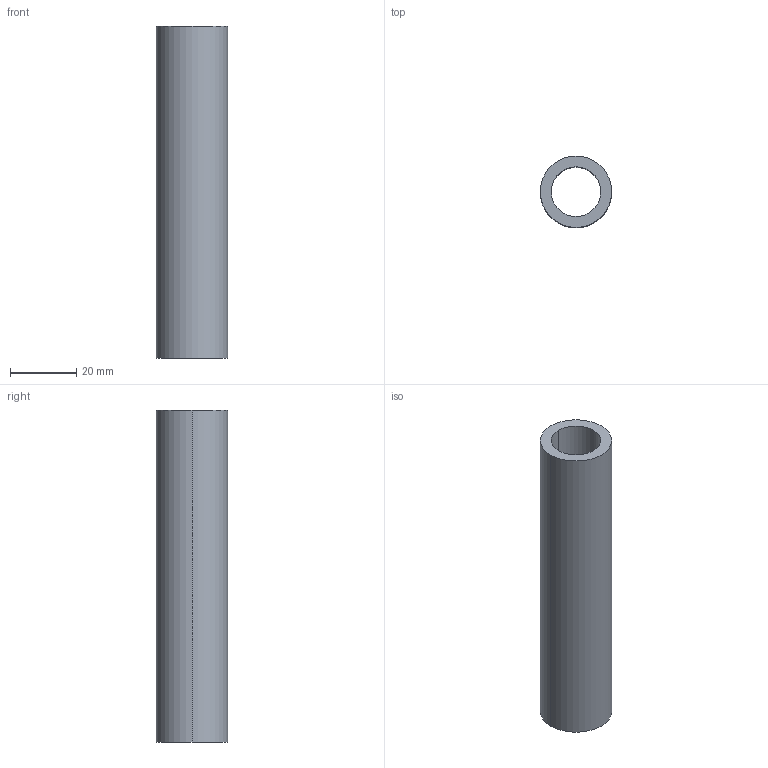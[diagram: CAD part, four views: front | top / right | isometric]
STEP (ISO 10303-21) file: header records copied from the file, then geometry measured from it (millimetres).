
FILE_DESCRIPTION (( 'STEP AP203' ), '1' );
FILE_NAME ('19-0408-33_outokumpu.step', '2015-08-11T09:37:46', ( '' ), ( '' ), 'SwSTEP 2.0', 'SolidWorks 2008', '' );
FILE_SCHEMA (( 'CONFIG_CONTROL_DESIGN' ));
Length unit declared in the file: millimetre
Products named in the file (1): 19-0408-33_outokumpu
Bounding box: 21.5 x 21.5 x 100 mm (x, y, z)
Volume: 18253.3 mm3; surface area: 11858.3 mm2
Topology: 1 solids, 1 shells, 12 faces, 26 edges, 16 vertices
Faces by surface type: cylinder 6, cone 4, plane 2
Entity records: 415 total; most frequent: DIRECTION 68, CARTESIAN_POINT 55, ORIENTED_EDGE 52, AXIS2_PLACEMENT_3D 29, EDGE_CURVE 26, VERTEX_POINT 16, CIRCLE 16, EDGE_LOOP 14
